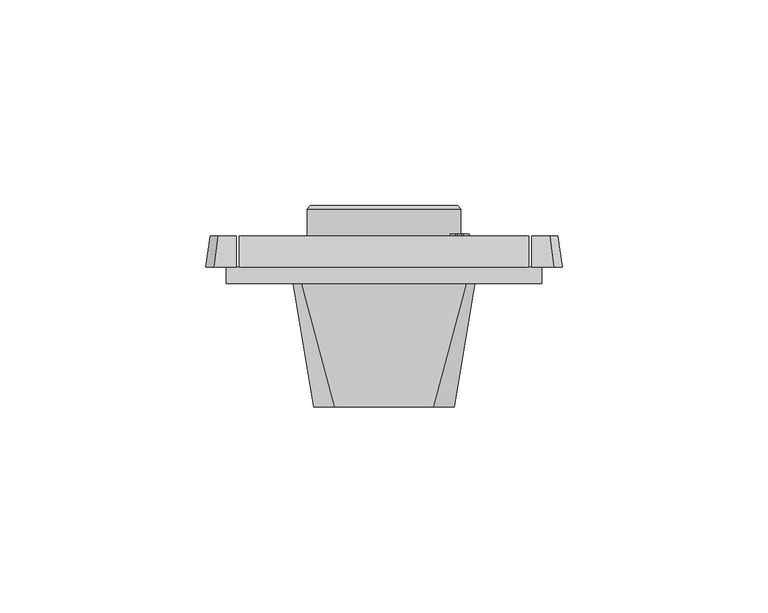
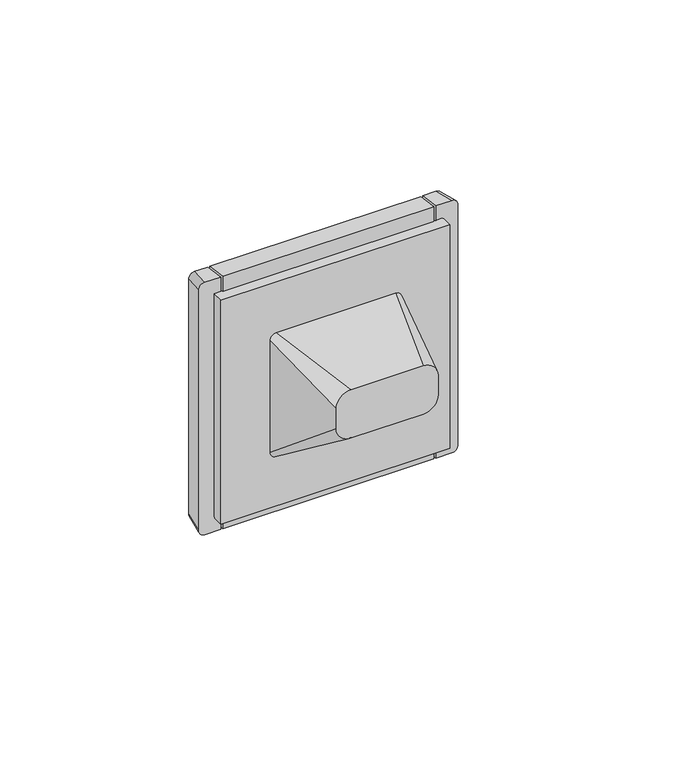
"""IFC4 building model written with IfcOpenShell, lengths in millimetres: proxy geometry, IEK_Forte&Piano_Свето-терморегулятор : ТС_FP152."""

from ifc_helpers import new_model, si_unit, point, frame, frame_2d, origin, place, context, project, spatial, polyline, circle_curve, trimmed, segment, composite_curve, outline, extrude, faceted_brep, source, transform, mapped, element, save
from ifc_brep_helpers import plane_surface, cylinder_surface, revolved_surface, extruded_surface, spline_surface, advanced_brep


def electrical_fixtures_f5099b39(model_context):
    return source(origin(), model_context, "Body", "SolidModel", [
        extrude(outline(polyline([(17.8740703, 12.0), (18.7061982, 12.0), (18.7061982, 11.5), (17.8740703, 11.5), (17.8740703, 12.0)])), frame((0.0, 0.0, 16.3670652), z_axis=(0.0, 0.0, 1.0), x_axis=(1.0, 0.0, 0.0)), (0.0, 0.0, 1.0), 2.9889905),
        extrude(outline(composite_curve([segment(trimmed(circle_curve(frame_2d((16.4406374, 18.3433118)), 2.3080223), [point((18.4689313, 17.2419533))], [point((18.5040507, 19.3773776))], False, "CARTESIAN"), True, "CONTINUOUS"), segment(polyline([(18.5040507, 19.3773776), (17.538289, 19.3773776)]), True, "CONTINUOUS"), segment(trimmed(circle_curve(frame_2d((16.4406374, 18.3433118)), 1.5080223), [point((17.538289, 19.3773776))], [point((17.4707542, 17.2419533))], True, "CARTESIAN"), True, "CONTINUOUS"), segment(polyline([(17.4707542, 17.2419533), (18.4689313, 17.2419533)]), True, "CONTINUOUS")], self_intersect=False)), frame((0.0, 11.5, 0.0), z_axis=(0.0, 1.0, 0.0), x_axis=(0.0, 0.0, 1.0)), (0.0, 0.0, 1.0), 0.5),
        extrude(outline(composite_curve([segment(trimmed(circle_curve(frame_2d((0.0, 0.003319)), 17.0578704), [point((17.0578704, 0.003319))], [point((-17.0578704, 0.003319))], False, "CARTESIAN"), True, "CONTINUOUS"), segment(trimmed(circle_curve(frame_2d((0.0, 0.003319)), 17.0578704), [point((-17.0578704, 0.003319))], [point((17.0578704, 0.003319))], False, "CARTESIAN"), True, "CONTINUOUS")], self_intersect=False)), frame((0.0, 17.5217188, 0.0), z_axis=(0.0, 1.0, 0.0), x_axis=(0.0, 0.0, 1.0)), (0.0, 0.0, 1.0), 1.3778649),
        advanced_brep(
        [(0.0, 5.8439145, 0.0), (-18.6103946, 5.8439145, 0.0), (18.6103946, 5.8439145, 0.0), (17.0578708, 17.5217188, 0.0), (-17.0578708, 17.5217188, 0.0), (0.0, 17.5217188, 0.0), (17.0578708, 18.8995837, 0.0), (-17.0578708, 18.8995837, 0.0), (17.8535392, 18.8995837, 0.0), (-17.8535392, 18.8995837, 0.0), (18.6103946, 18.1427283, 0.0), (-18.6103946, 18.1427283, 0.0)],
        [
            (0, 1),
            (1, 2, circle_curve(frame((0.0, 5.8439145, 0.0), z_axis=(0.0, -1.0, 0.0), x_axis=(-1.0, 0.0, 0.0)), 18.6103946)),
            (2, 0),
            (2, 1, circle_curve(frame((0.0, 5.8439145, 0.0), z_axis=(0.0, -1.0, 0.0), x_axis=(-1.0, 0.0, 0.0)), 18.6103946)),
            (3, 4, circle_curve(frame((0.0, 17.5217188, 0.0), z_axis=(0.0, 1.0, 0.0), x_axis=(-1.0, 0.0, 0.0)), 17.0578708)),
            (4, 5),
            (5, 3),
            (4, 3, circle_curve(frame((0.0, 17.5217188, 0.0), z_axis=(0.0, 1.0, 0.0), x_axis=(-1.0, 0.0, 0.0)), 17.0578708)),
            (6, 7, circle_curve(frame((0.0, 18.8995837, 0.0), z_axis=(0.0, 1.0, 0.0), x_axis=(-1.0, 0.0, 0.0)), 17.0578708)),
            (7, 4),
            (3, 6),
            (7, 6, circle_curve(frame((0.0, 18.8995837, 0.0), z_axis=(0.0, 1.0, 0.0), x_axis=(-1.0, 0.0, 0.0)), 17.0578708)),
            (8, 9, circle_curve(frame((0.0, 18.8995837, 0.0), z_axis=(0.0, 1.0, 0.0), x_axis=(-1.0, 0.0, 0.0)), 17.8535392)),
            (9, 7),
            (6, 8),
            (9, 8, circle_curve(frame((0.0, 18.8995837, 0.0), z_axis=(0.0, 1.0, 0.0), x_axis=(-1.0, 0.0, 0.0)), 17.8535392)),
            (10, 11, circle_curve(frame((0.0, 18.1427283, 0.0), z_axis=(0.0, 1.0, 0.0), x_axis=(-1.0, 0.0, 0.0)), 18.6103946)),
            (11, 9),
            (8, 10),
            (11, 10, circle_curve(frame((0.0, 18.1427283, 0.0), z_axis=(0.0, 1.0, 0.0), x_axis=(-1.0, 0.0, 0.0)), 18.6103946)),
            (1, 11),
            (10, 2),
        ],
        [
            plane_surface(frame((0.0, 5.8439145, 0.0), z_axis=(0.0, -1.0, 0.0), x_axis=(-1.0, 0.0, 0.0))),
            plane_surface(frame((0.0, 17.5217188, 0.0), z_axis=(0.0, 1.0, 0.0), x_axis=(-1.0, 0.0, 0.0))),
            revolved_surface(polyline([(-17.0578708, 17.5217188, 0.0), (-17.0578708, 18.8995837, 0.0)]), (0.0, 20.7432057, 0.0), (0.0, -1.0, 0.0)),
            plane_surface(frame((0.0, 18.8995837, 0.0), z_axis=(0.0, 1.0, 0.0), x_axis=(-1.0, 0.0, 0.0))),
            revolved_surface(polyline([(-17.8535392, 18.8995837, 0.0), (-18.6103946, 18.1427283, 0.0)]), (0.0, 20.7432057, 0.0), (0.0, -1.0, 0.0)),
            cylinder_surface(frame((0.0, 20.7432057, 0.0), z_axis=(0.0, -1.0, 0.0), x_axis=(-1.0, 0.0, 0.0)), 18.6103946),
        ],
        [
            (0, [[1, 2, 3]]),
            (0, [[-3, 4, -1]]),
            (1, [[5, 6, 7]]),
            (1, [[8, -7, -6]]),
            (2, [[9, 10, -5, 11]]),
            (2, [[12, -11, -8, -10]]),
            (3, [[13, 14, -9, 15]]),
            (3, [[16, -15, -12, -14]]),
            (4, [[17, 18, -13, 19]]),
            (4, [[20, -19, -16, -18]]),
            (5, [[-2, 21, -17, 22]]),
            (5, [[-4, -22, -20, -21]]),
        ],
    ),
        faceted_brep([(35.2, 11.5, 43.5), (35.2, 4.0, 44.5), (35.2, 4.0, -44.5), (35.2, 11.5, -43.5), (-35.2, 11.5, 43.5), (-35.2, 11.5, -43.5), (-35.2, 4.0, -44.5), (-35.2, 4.0, 44.5), (-23.5, 4.0, 23.5), (23.5, 4.0, 23.5), (23.5, 4.0, -23.5), (-23.5, 4.0, -23.5), (23.5, 11.5, 23.5), (-23.5, 11.5, 23.5), (-23.5, 11.5, -23.5), (23.5, 11.5, -23.5)], [[[0, 1, 2, 3]], [[4, 5, 6, 7]], [[1, 0, 4, 7]], [[2, 1, 7, 6], [8, 9, 10, 11]], [[3, 2, 6, 5]], [[0, 3, 5, 4], [12, 13, 14, 15]], [[8, 13, 12, 9]], [[9, 12, 15, 10]], [[10, 15, 14, 11]], [[13, 8, 11, 14]]]),
        advanced_brep(
        [(22.7, 4.0, 22.7), (-22.7, 4.0, 22.7), (-22.7, 4.0, -22.7), (22.7, 4.0, -22.7), (-22.7, 11.5, 22.7), (22.7, 11.5, 22.7), (22.7, 11.5, -22.7), (-22.7, 11.5, -22.7), (-19.3454313, 11.5, 0.0), (19.3454313, 11.5, 0.0), (19.3454313, 5.8439145, 0.0), (-19.3454313, 5.8439145, 0.0)],
        [
            (0, 1),
            (1, 2),
            (2, 3),
            (3, 0),
            (4, 5),
            (5, 6),
            (6, 7),
            (7, 4),
            (8, 9, circle_curve(frame((0.0, 11.5, 0.0), z_axis=(0.0, -1.0, 0.0), x_axis=(-1.0, 0.0, 0.0)), 19.3454313)),
            (9, 8, circle_curve(frame((0.0, 11.5, 0.0), z_axis=(0.0, -1.0, 0.0), x_axis=(-1.0, 0.0, 0.0)), 19.3454313)),
            (0, 5),
            (4, 1),
            (3, 6),
            (2, 7),
            (10, 11, circle_curve(frame((0.0, 5.8439145, 0.0), z_axis=(0.0, 1.0, 0.0), x_axis=(-1.0, 0.0, 0.0)), 19.3454313)),
            (11, 10, circle_curve(frame((0.0, 5.8439145, 0.0), z_axis=(0.0, 1.0, 0.0), x_axis=(-1.0, 0.0, 0.0)), 19.3454313)),
            (10, 9),
            (8, 11),
        ],
        [
            plane_surface(frame((35.2, 4.0, 44.5), z_axis=(0.0, -1.0, 0.0), x_axis=(-1.0, 0.0, 0.0))),
            plane_surface(frame((35.2, 11.5, -43.5), z_axis=(0.0, 1.0, 0.0), x_axis=(-1.0, 0.0, 0.0))),
            plane_surface(frame((22.7, 11.6, 22.7), z_axis=(0.0, 0.0, 1.0), x_axis=(0.0, -1.0, 0.0))),
            plane_surface(frame((22.7, 11.6, -22.7), z_axis=(1.0, 0.0, 0.0), x_axis=(0.0, -1.0, 0.0))),
            plane_surface(frame((-22.7, 11.6, -22.7), z_axis=(0.0, 0.0, -1.0), x_axis=(0.0, -1.0, 0.0))),
            plane_surface(frame((-22.7, 11.6, 22.7), z_axis=(-1.0, 0.0, 0.0), x_axis=(0.0, -1.0, 0.0))),
            plane_surface(frame((-19.3454313, 5.8439145, 0.0), z_axis=(0.0, 1.0, 0.0), x_axis=(0.0, 0.0, -1.0))),
            revolved_surface(polyline([(-19.3454313, 11.5, 0.0), (-19.3454313, 5.8439145, 0.0)]), (0.0, 5.8439145, 0.0), (0.0, 1.0, 0.0)),
        ],
        [
            (0, [[1, 2, 3, 4]]),
            (1, [[5, 6, 7, 8], [9, 10]]),
            (2, [[11, -5, 12, -1]]),
            (3, [[-11, -4, 13, -6]]),
            (4, [[-13, -3, 14, -7]]),
            (5, [[-14, -2, -12, -8]]),
            (6, [[15, 16]]),
            (7, [[-15, 17, -9, 18]]),
            (7, [[-16, -18, -10, -17]]),
        ],
    ),
        advanced_brep(
        [(35.8576533, 11.5, 43.5), (35.8576533, 11.5, -43.5), (35.8576533, 4.0, -44.5), (35.8576533, 4.0, -39.5), (35.8576533, 4.0, 39.5), (35.8576533, 4.0, 44.5), (-35.8576533, 11.5, -43.5), (-35.8576533, 11.5, 43.5), (-35.8576533, 4.0, 44.5), (-35.8576533, 4.0, 39.5), (-35.8576533, 4.0, -39.5), (-35.8576533, 4.0, -44.5), (40.25, 11.5, 43.5), (42.25, 11.5, 41.5), (42.25, 11.5, -41.5), (40.25, 11.5, -43.5), (-40.25, 11.5, -43.5), (-42.25, 11.5, -41.5), (-42.25, 11.5, 41.5), (-40.25, 11.5, 43.5), (-41.25, 4.0, 44.5), (-43.25, 4.0, 42.5), (-43.25, 4.0, -42.5), (-41.25, 4.0, -44.5), (-38.25, 4.0, -39.5), (-38.25, 4.0, 39.5), (41.25, 4.0, -44.5), (43.25, 4.0, -42.5), (43.25, 4.0, 42.5), (41.25, 4.0, 44.5), (38.25, 4.0, 39.5), (38.25, 4.0, -39.5), (-38.25, 0.0, 39.5), (-38.25, 0.0, -39.5), (38.25, 0.0, -39.5), (38.25, 0.0, 39.5)],
        [
            (0, 1),
            (1, 2),
            (2, 3),
            (3, 4),
            (4, 5),
            (5, 0),
            (6, 7),
            (7, 8),
            (8, 9),
            (9, 10),
            (10, 11),
            (11, 6),
            (12, 13, circle_curve(frame((40.25, 11.5, 41.5), z_axis=(0.0, 1.0, 0.0), x_axis=(-1.0, 0.0, 0.0)), 2.0)),
            (13, 14),
            (14, 15, circle_curve(frame((40.25, 11.5, -41.5), z_axis=(0.0, 1.0, 0.0), x_axis=(-1.0, 0.0, 0.0)), 2.0)),
            (15, 1),
            (0, 12),
            (16, 17, circle_curve(frame((-40.25, 11.5, -41.5), z_axis=(0.0, 1.0, 0.0), x_axis=(-1.0, 0.0, 0.0)), 2.0)),
            (17, 18),
            (18, 19, circle_curve(frame((-40.25, 11.5, 41.5), z_axis=(0.0, 1.0, 0.0), x_axis=(-1.0, 0.0, 0.0)), 2.0)),
            (19, 7),
            (6, 16),
            (20, 21, circle_curve(frame((-41.25, 4.0, 42.5), z_axis=(0.0, -1.0, 0.0), x_axis=(-1.0, 0.0, 0.0)), 2.0)),
            (21, 22),
            (22, 23, circle_curve(frame((-41.25, 4.0, -42.5), z_axis=(0.0, -1.0, 0.0), x_axis=(-1.0, 0.0, 0.0)), 2.0)),
            (23, 11),
            (10, 24),
            (24, 25),
            (25, 9),
            (8, 20),
            (26, 27, circle_curve(frame((41.25, 4.0, -42.5), z_axis=(0.0, -1.0, 0.0), x_axis=(-1.0, 0.0, 0.0)), 2.0)),
            (27, 28),
            (28, 29, circle_curve(frame((41.25, 4.0, 42.5), z_axis=(0.0, -1.0, 0.0), x_axis=(-1.0, 0.0, 0.0)), 2.0)),
            (29, 5),
            (4, 30),
            (30, 31),
            (31, 3),
            (2, 26),
            (29, 12),
            (19, 20),
            (28, 13),
            (27, 14),
            (26, 15),
            (23, 16),
            (22, 17),
            (21, 18),
            (3, 10),
            (9, 4),
            (32, 33),
            (33, 34),
            (34, 35),
            (35, 32),
            (32, 25),
            (24, 33),
            (31, 34),
            (30, 35),
        ],
        [
            plane_surface(frame((35.8576533, 11.5, 44.5), z_axis=(-1.0, 0.0, 0.0), x_axis=(0.0, -1.0, 0.0))),
            plane_surface(frame((-35.8576533, 11.5, -44.5), z_axis=(1.0, 0.0, 0.0), x_axis=(0.0, -1.0, 0.0))),
            plane_surface(frame((0.0, 11.5, 0.0), z_axis=(0.0, 1.0, 0.0), x_axis=(1.0, 0.0, 0.0))),
            plane_surface(frame((0.0, 4.0, 0.0), z_axis=(0.0, -1.0, 0.0), x_axis=(1.0, 0.0, 0.0))),
            plane_surface(frame((0.0, 4.0, 44.5), z_axis=(0.0, 0.13216372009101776, 0.9912279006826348), x_axis=(1.0, 0.0, 0.0))),
            extruded_surface(trimmed(circle_curve(frame((41.25, 4.0, 42.5), z_axis=(0.0, 1.0, 0.0), x_axis=(-1.0, 0.0, 0.0)), 2.0), [point((41.25, 4.0, 44.5))], [point((43.25, 4.0, 42.5))], True, "CARTESIAN"), (-1.0, 7.5, -1.0), 7.632168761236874),
            plane_surface(frame((43.25, 4.0, 0.0), z_axis=(0.9912279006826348, 0.13216372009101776, 0.0), x_axis=(0.0, 0.0, -1.0))),
            extruded_surface(trimmed(circle_curve(frame((41.25, 4.0, -42.5), z_axis=(0.0, 1.0, 0.0), x_axis=(-1.0, 0.0, 0.0)), 2.0), [point((43.25, 4.0, -42.5))], [point((41.25, 4.0, -44.5))], True, "CARTESIAN"), (-1.0, 7.5, 1.0), 7.632168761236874),
            plane_surface(frame((0.0, 4.0, -44.5), z_axis=(0.0, 0.13216372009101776, -0.9912279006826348), x_axis=(-1.0, 0.0, 0.0))),
            extruded_surface(trimmed(circle_curve(frame((-41.25, 4.0, -42.5), z_axis=(0.0, 1.0, 0.0), x_axis=(-1.0, 0.0, 0.0)), 2.0), [point((-41.25, 4.0, -44.5))], [point((-43.25, 4.0, -42.5))], True, "CARTESIAN"), (1.0, 7.5, 1.0), 7.632168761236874),
            plane_surface(frame((-43.25, 4.0, 0.0), z_axis=(-0.9912279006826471, 0.13216372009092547, 0.0), x_axis=(0.0, 0.0, 1.0))),
            extruded_surface(trimmed(circle_curve(frame((-41.25, 4.0, 42.5), z_axis=(0.0, 1.0, 0.0), x_axis=(-1.0, 0.0, 0.0)), 2.0), [point((-43.25, 4.0, 42.5))], [point((-41.25, 4.0, 44.5))], True, "CARTESIAN"), (1.0, 7.5, -1.0), 7.632168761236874),
            plane_surface(frame((-38.25, 4.0, 39.5), z_axis=(0.0, 1.0, 0.0), x_axis=(0.0, 0.0, 1.0))),
            plane_surface(frame((-38.25, 0.0, 39.5), z_axis=(0.0, -1.0, 0.0), x_axis=(0.0, 0.0, -1.0))),
            plane_surface(frame((-38.25, 0.0, 39.5), z_axis=(-1.0, 0.0, 0.0), x_axis=(0.0, 1.0, 0.0))),
            plane_surface(frame((-38.25, 0.0, -39.5), z_axis=(0.0, 0.0, -1.0), x_axis=(0.0, 1.0, 0.0))),
            plane_surface(frame((38.25, 0.0, -39.5), z_axis=(1.0, 0.0, 0.0), x_axis=(0.0, 1.0, 0.0))),
            plane_surface(frame((38.25, 0.0, 39.5), z_axis=(0.0, 0.0, 1.0), x_axis=(0.0, 1.0, 0.0))),
        ],
        [
            (0, [[1, 2, 3, 4, 5, 6]]),
            (1, [[7, 8, 9, 10, 11, 12]]),
            (2, [[13, 14, 15, 16, -1, 17]]),
            (2, [[18, 19, 20, 21, -7, 22]]),
            (3, [[23, 24, 25, 26, -11, 27, 28, 29, -9, 30]]),
            (3, [[31, 32, 33, 34, -5, 35, 36, 37, -3, 38]]),
            (4, [[39, -17, -6, -34]]),
            (4, [[40, -30, -8, -21]]),
            (5, [[-13, -39, -33, 41]]),
            (6, [[-14, -41, -32, 42]]),
            (7, [[-15, -42, -31, 43]]),
            (8, [[-43, -38, -2, -16]]),
            (8, [[44, -22, -12, -26]]),
            (9, [[-18, -44, -25, 45]]),
            (10, [[-19, -45, -24, 46]]),
            (11, [[-20, -46, -23, -40]]),
            (12, [[47, -10, 48, -4]]),
            (13, [[49, 50, 51, 52]]),
            (14, [[-49, 53, -28, 54]]),
            (15, [[-50, -54, -27, -47, -37, 55]]),
            (16, [[-51, -55, -36, 56]]),
            (17, [[-52, -56, -35, -48, -29, -53]]),
        ],
    ),
        advanced_brep(
        [(-12.0, -30.0, 17.0), (-17.0, -30.0, 12.0), (-17.0, -30.0, 5.0), (-12.0, -30.0, 0.0), (12.0, -30.0, 0.0), (17.0, -30.0, 5.0), (17.0, -30.0, 12.0), (12.0, -30.0, 17.0), (-20.0, 0.0, 22.0), (20.0, 0.0, 22.0), (22.0, 0.0, 20.0), (22.0, 0.0, -20.0), (20.0, 0.0, -22.0), (-20.0, 0.0, -22.0), (-22.0, 0.0, -20.0), (-22.0, 0.0, 20.0)],
        [
            (0, 1, circle_curve(frame((-12.0, -30.0, 12.0), z_axis=(0.0, -1.0, 0.0), x_axis=(1.0, 0.0, 0.0)), 5.0)),
            (1, 2),
            (2, 3, circle_curve(frame((-12.0, -30.0, 5.0), z_axis=(0.0, -1.0, 0.0), x_axis=(1.0, 0.0, 0.0)), 5.0)),
            (3, 4),
            (4, 5, circle_curve(frame((12.0, -30.0, 5.0), z_axis=(0.0, -1.0, 0.0), x_axis=(1.0, 0.0, 0.0)), 5.0)),
            (5, 6),
            (6, 7, circle_curve(frame((12.0, -30.0, 12.0), z_axis=(0.0, -1.0, 0.0), x_axis=(1.0, 0.0, 0.0)), 5.0)),
            (7, 0),
            (8, 9),
            (9, 10, circle_curve(frame((20.0, 0.0, 20.0), z_axis=(0.0, 1.0, 0.0), x_axis=(1.0, 0.0, 0.0)), 2.0)),
            (10, 11),
            (11, 12, circle_curve(frame((20.0, 0.0, -20.0), z_axis=(0.0, 1.0, 0.0), x_axis=(1.0, 0.0, 0.0)), 2.0)),
            (12, 13),
            (13, 14, circle_curve(frame((-20.0, 0.0, -20.0), z_axis=(0.0, 1.0, 0.0), x_axis=(1.0, 0.0, 0.0)), 2.0)),
            (14, 15),
            (15, 8, circle_curve(frame((-20.0, 0.0, 20.0), z_axis=(0.0, 1.0, 0.0), x_axis=(1.0, 0.0, 0.0)), 2.0)),
            (8, 0),
            (7, 9),
            (6, 10),
            (5, 11),
            (4, 12),
            (3, 13),
            (2, 14),
            (1, 15),
        ],
        [
            plane_surface(frame((0.0, -30.0, 8.5), z_axis=(0.0, -1.0, 0.0), x_axis=(-1.0, 0.0, 0.0))),
            plane_surface(frame((0.0, 0.0, 0.0), z_axis=(0.0, 1.0, 0.0), x_axis=(-1.0, 0.0, 0.0))),
            plane_surface(frame((0.0, 0.0, 22.0), z_axis=(0.0, -0.16439898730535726, 0.9863939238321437), x_axis=(-1.0, 0.0, 0.0))),
            spline_surface(2, 1, [[(22.0, 0.0, 20.0), (17.0, -30.0, 12.0)], [(22.0, 0.0, 22.0), (17.0, -30.0, 17.0)], [(20.0, 0.0, 22.0), (12.0, -30.0, 17.0)]], [3, 3], [2, 2], [0.0, 1.0], [0.0, 1.0], weights=[[1.0, 1.0], [0.7071067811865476, 0.7071067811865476], [1.0, 1.0]]),
            plane_surface(frame((22.0, 0.0, 0.0), z_axis=(0.9863939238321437, -0.1643989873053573, 0.0), x_axis=(0.0, 0.0, 1.0))),
            spline_surface(2, 1, [[(20.0, 0.0, -22.0), (12.0, -30.0, 0.0)], [(22.0, 0.0, -22.0), (17.0, -30.0, 0.0)], [(22.0, 0.0, -20.0), (17.0, -30.0, 5.0)]], [3, 3], [2, 2], [0.0, 1.0], [0.0, 1.0], weights=[[1.0, 1.0], [0.7071067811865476, 0.7071067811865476], [1.0, 1.0]]),
            plane_surface(frame((0.0, 0.0, -22.0), z_axis=(0.0, -0.591363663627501, -0.8064049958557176), x_axis=(1.0, 0.0, 0.0))),
            spline_surface(2, 1, [[(-22.0, 0.0, -20.0), (-17.0, -30.0, 5.0)], [(-22.0, 0.0, -22.0), (-17.0, -30.0, 0.0)], [(-20.0, 0.0, -22.0), (-12.0, -30.0, 0.0)]], [3, 3], [2, 2], [0.0, 1.0], [0.0, 1.0], weights=[[1.0, 1.0], [0.7071067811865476, 0.7071067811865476], [1.0, 1.0]]),
            plane_surface(frame((-22.0, 0.0, 0.0), z_axis=(-0.9863939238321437, -0.1643989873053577, 0.0), x_axis=(0.0, 0.0, -1.0))),
            spline_surface(2, 1, [[(-20.0, 0.0, 22.0), (-12.0, -30.0, 17.0)], [(-22.0, 0.0, 22.0), (-17.0, -30.0, 17.0)], [(-22.0, 0.0, 20.0), (-17.0, -30.0, 12.0)]], [3, 3], [2, 2], [0.0, 1.0], [0.0, 1.0], weights=[[1.0, 1.0], [0.7071067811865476, 0.7071067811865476], [1.0, 1.0]]),
        ],
        [
            (0, [[1, 2, 3, 4, 5, 6, 7, 8]]),
            (1, [[9, 10, 11, 12, 13, 14, 15, 16]]),
            (2, [[-9, 17, -8, 18]]),
            (3, [[-10, -18, -7, 19]]),
            (4, [[-11, -19, -6, 20]]),
            (5, [[-12, -20, -5, 21]]),
            (6, [[-13, -21, -4, 22]]),
            (7, [[-14, -22, -3, 23]]),
            (8, [[-15, -23, -2, 24]]),
            (9, [[-16, -24, -1, -17]]),
        ],
    ),
    ])


if __name__ == "__main__":
    model = new_model("IFC4")
    model_context = context("Model", 3, world=origin())
    ifc_project = project(units=[si_unit("LENGTHUNIT", "METRE", prefix="MILLI")], contexts=[model_context])
    site = spatial("IfcSite", under=ifc_project)
    building = spatial("IfcBuilding", under=site)
    placement = place(None, origin())
    electrical_fixtures_shape = electrical_fixtures_f5099b39(model_context)
    element("IfcBuildingElementProxy", 1, Name="IEK_Forte&Piano_Свето-терморегулятор : ТС_FP152", ObjectType="IEK_Forte&Piano_Свето-терморегулятор : ТС_FP152", at=placement, inside=building, context=model_context, shape_type="MappedRepresentation", body=[
        mapped(electrical_fixtures_shape, transform((0.0, 0.0, 0.0), x_axis=(1.0, 0.0, 0.0), y_axis=(0.0, 1.0, 0.0), z_axis=(0.0, 0.0, 1.0))),
    ])
    save(model, "model.ifc")
